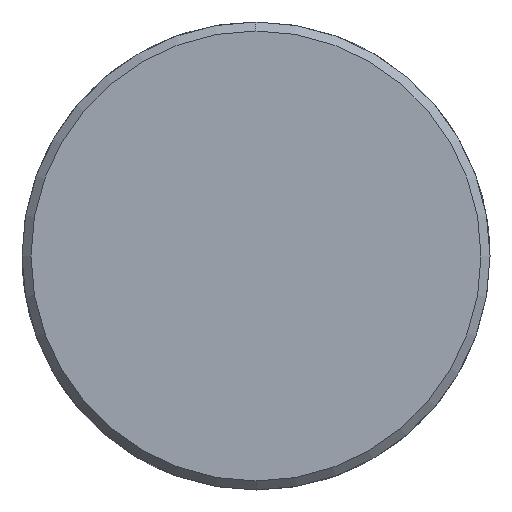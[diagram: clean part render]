
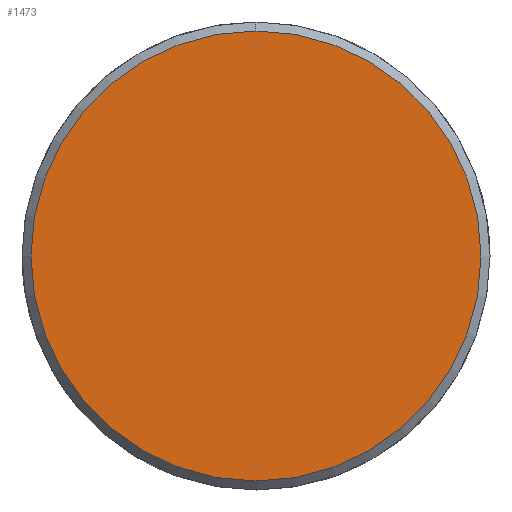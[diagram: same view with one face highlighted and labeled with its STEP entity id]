
A CAD part, left-side view. The second image highlights one B-rep face of the part: STEP entity #1473.
In plain terms, the highlighted planar face has unit normal (-1, 0, 0).
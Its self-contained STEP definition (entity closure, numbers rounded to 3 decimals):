
#1405=CARTESIAN_POINT('Vertex',(-8.,0.,-25.)) ;
#1408=CARTESIAN_POINT('Axis2P3D Location',(-8.,0.,0.)) ;
#1412=CARTESIAN_POINT('Vertex',(-8.,25.,0.)) ;
#1415=CARTESIAN_POINT('Axis2P3D Location',(-8.,0.,0.)) ;
#1419=CARTESIAN_POINT('Vertex',(-8.,0.,25.)) ;
#1441=CARTESIAN_POINT('Axis2P3D Location',(-8.,0.,0.)) ;
#1445=CARTESIAN_POINT('Vertex',(-8.,-25.,0.)) ;
#1448=CARTESIAN_POINT('Axis2P3D Location',(-8.,0.,0.)) ;
#1462=CARTESIAN_POINT('Axis2P3D Location',(-8.,0.,0.)) ;
#1409=DIRECTION('Axis2P3D Direction',(1.,0.,-0.)) ;
#1416=DIRECTION('Axis2P3D Direction',(1.,0.,-0.)) ;
#1442=DIRECTION('Axis2P3D Direction',(1.,0.,-0.)) ;
#1449=DIRECTION('Axis2P3D Direction',(1.,0.,-0.)) ;
#1463=DIRECTION('Axis2P3D Direction',(1.,0.,-0.)) ;
#1464=DIRECTION('Axis2P3D XDirection',(-0.,0.,-1.)) ;
#1410=AXIS2_PLACEMENT_3D('Circle Axis2P3D',#1408,#1409,$) ;
#1417=AXIS2_PLACEMENT_3D('Circle Axis2P3D',#1415,#1416,$) ;
#1443=AXIS2_PLACEMENT_3D('Circle Axis2P3D',#1441,#1442,$) ;
#1450=AXIS2_PLACEMENT_3D('Circle Axis2P3D',#1448,#1449,$) ;
#1465=AXIS2_PLACEMENT_3D('Plane Axis2P3D',#1462,#1463,#1464) ;
#1468=ORIENTED_EDGE('',*,*,#1414,.F.) ;
#1469=ORIENTED_EDGE('',*,*,#1452,.F.) ;
#1470=ORIENTED_EDGE('',*,*,#1447,.F.) ;
#1471=ORIENTED_EDGE('',*,*,#1421,.F.) ;
#1473=ADVANCED_FACE('351-40X86X260',(#1472),#1466,.F.) ;
#1411=CIRCLE('generated circle',#1410,25.) ;
#1418=CIRCLE('generated circle',#1417,25.) ;
#1444=CIRCLE('generated circle',#1443,25.) ;
#1451=CIRCLE('generated circle',#1450,25.) ;
#1414=EDGE_CURVE('',#1406,#1413,#1411,.T.) ;
#1421=EDGE_CURVE('',#1413,#1420,#1418,.T.) ;
#1447=EDGE_CURVE('',#1420,#1446,#1444,.T.) ;
#1452=EDGE_CURVE('',#1446,#1406,#1451,.T.) ;
#1467=EDGE_LOOP('',(#1468,#1469,#1470,#1471)) ;
#1472=FACE_OUTER_BOUND('',#1467,.T.) ;
#1466=PLANE('Plane',#1465) ;
#1406=VERTEX_POINT('',#1405) ;
#1413=VERTEX_POINT('',#1412) ;
#1420=VERTEX_POINT('',#1419) ;
#1446=VERTEX_POINT('',#1445) ;
